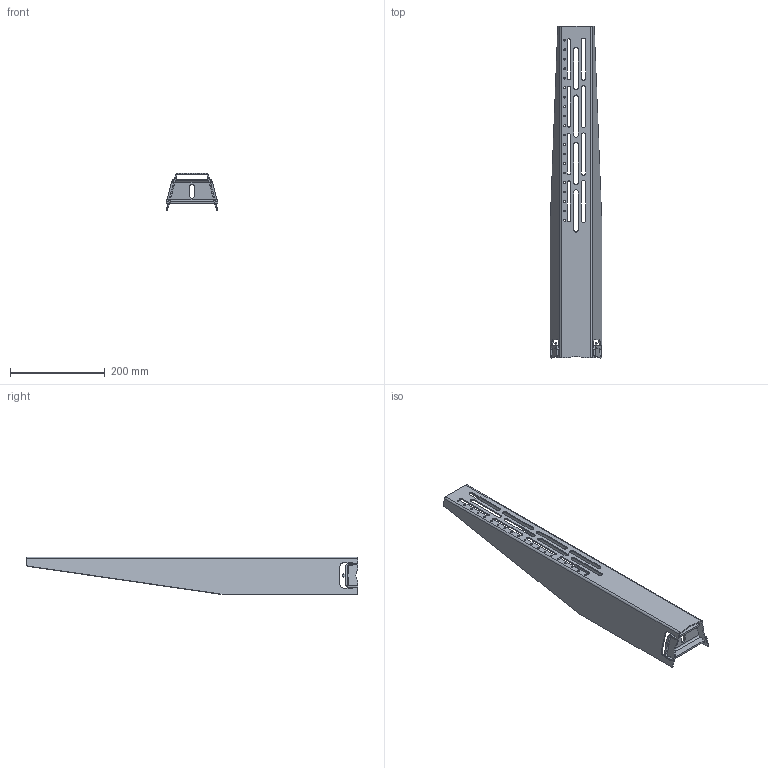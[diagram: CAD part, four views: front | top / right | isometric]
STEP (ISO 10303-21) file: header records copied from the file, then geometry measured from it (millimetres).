
FILE_DESCRIPTION (( 'STEP AP214' ), '1' );
FILE_NAME ('080043-11X11X0700 KONSOLE 0800 700M.STEP', '2013-01-17T10:35:36', ( '' ), ( '' ), 'SwSTEP 2.0', 'SolidWorks 2012', '' );
FILE_SCHEMA (( 'AUTOMOTIVE_DESIGN' ));
Length unit declared in the file: millimetre
Products named in the file (3): 08-B020-6773; 08-B020-6748; 080043-11X11X0700 KONSOLE 0800 700M
Assembly tree (2 placements, depth 2):
  080043-11X11X0700 KONSOLE 0800 700M
    08-B020-6748
    08-B020-6773
Bounding box: 109.31 x 700 x 79.77 mm (x, y, z)
Volume: 330880.9 mm3; surface area: 269304.9 mm2
Topology: 2 solids, 2 shells, 286 faces, 814 edges, 532 vertices
Faces by surface type: cylinder 163, plane 119, bspline 4
Entity records: 11831 total; most frequent: CARTESIAN_POINT 1769, DIRECTION 1698, ORIENTED_EDGE 1628, EDGE_CURVE 814, AXIS2_PLACEMENT_3D 605, VERTEX_POINT 532, LINE 488, VECTOR 488
